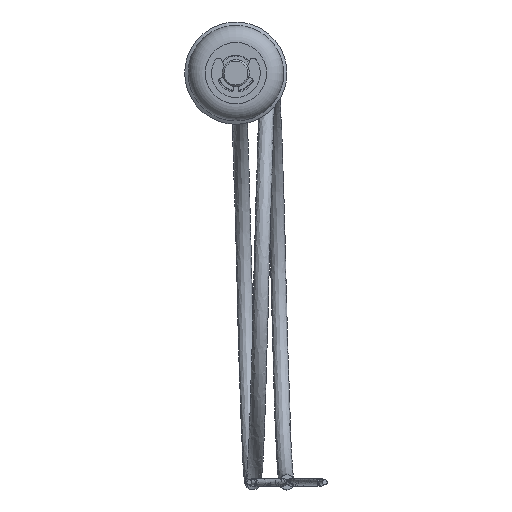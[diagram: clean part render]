
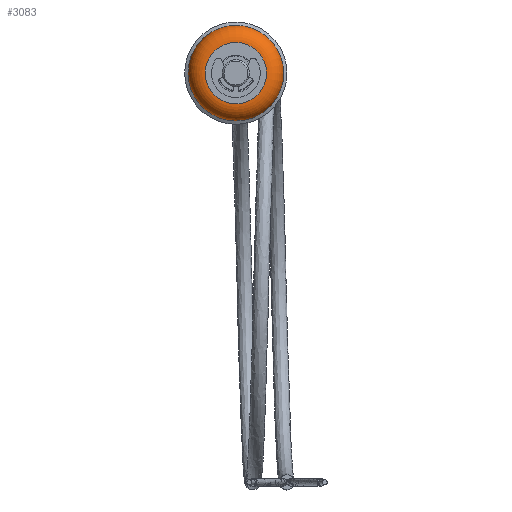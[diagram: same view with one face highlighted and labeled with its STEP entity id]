
A CAD part, left-side view. The second image highlights one B-rep face of the part: STEP entity #3083.
In plain terms, the highlighted toroidal (fillet/blend) face has major radius 9 mm and minor radius 5 mm.
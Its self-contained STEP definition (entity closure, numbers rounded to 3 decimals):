
#119=TOROIDAL_SURFACE('',#3536,9.,5.);
#412=FACE_OUTER_BOUND('',#618,.T.);
#618=EDGE_LOOP('',(#2527,#2528,#2529,#2530,#2531));
#1190=CIRCLE('',#3509,14.);
#1192=CIRCLE('',#3511,14.);
#1204=CIRCLE('',#3535,9.);
#1205=CIRCLE('',#3537,5.);
#1454=VERTEX_POINT('',#5739);
#1455=VERTEX_POINT('',#5740);
#1468=VERTEX_POINT('',#5786);
#1823=EDGE_CURVE('',#1454,#1455,#1190,.T.);
#1826=EDGE_CURVE('',#1455,#1454,#1192,.T.);
#1844=EDGE_CURVE('',#1468,#1468,#1204,.T.);
#1845=EDGE_CURVE('',#1468,#1455,#1205,.T.);
#2527=ORIENTED_EDGE('',*,*,#1844,.F.);
#2528=ORIENTED_EDGE('',*,*,#1845,.T.);
#2529=ORIENTED_EDGE('',*,*,#1826,.T.);
#2530=ORIENTED_EDGE('',*,*,#1823,.T.);
#2531=ORIENTED_EDGE('',*,*,#1845,.F.);
#3083=ADVANCED_FACE('',(#412),#119,.T.);
#3509=AXIS2_PLACEMENT_3D('',#5741,#4098,#4099);
#3511=AXIS2_PLACEMENT_3D('',#5745,#4103,#4104);
#3535=AXIS2_PLACEMENT_3D('',#5787,#4157,#4158);
#3536=AXIS2_PLACEMENT_3D('',#5788,#4159,#4160);
#3537=AXIS2_PLACEMENT_3D('',#5789,#4161,#4162);
#4098=DIRECTION('center_axis',(1.,0.,0.));
#4099=DIRECTION('ref_axis',(0.,0.,-1.));
#4103=DIRECTION('center_axis',(1.,0.,0.));
#4104=DIRECTION('ref_axis',(0.,0.,-1.));
#4157=DIRECTION('center_axis',(1.,0.,0.));
#4158=DIRECTION('ref_axis',(0.,0.,-1.));
#4159=DIRECTION('center_axis',(1.,0.,0.));
#4160=DIRECTION('ref_axis',(0.,0.,-1.));
#4161=DIRECTION('center_axis',(0.,-1.,0.));
#4162=DIRECTION('ref_axis',(0.,0.,1.));
#5739=CARTESIAN_POINT('',(12.5,-14.,0.));
#5740=CARTESIAN_POINT('',(12.5,0.,14.));
#5741=CARTESIAN_POINT('Origin',(12.5,0.,0.));
#5745=CARTESIAN_POINT('Origin',(12.5,0.,0.));
#5786=CARTESIAN_POINT('',(17.5,0.,9.));
#5787=CARTESIAN_POINT('Origin',(17.5,0.,0.));
#5788=CARTESIAN_POINT('Origin',(12.5,0.,0.));
#5789=CARTESIAN_POINT('Origin',(12.5,0.,9.));
